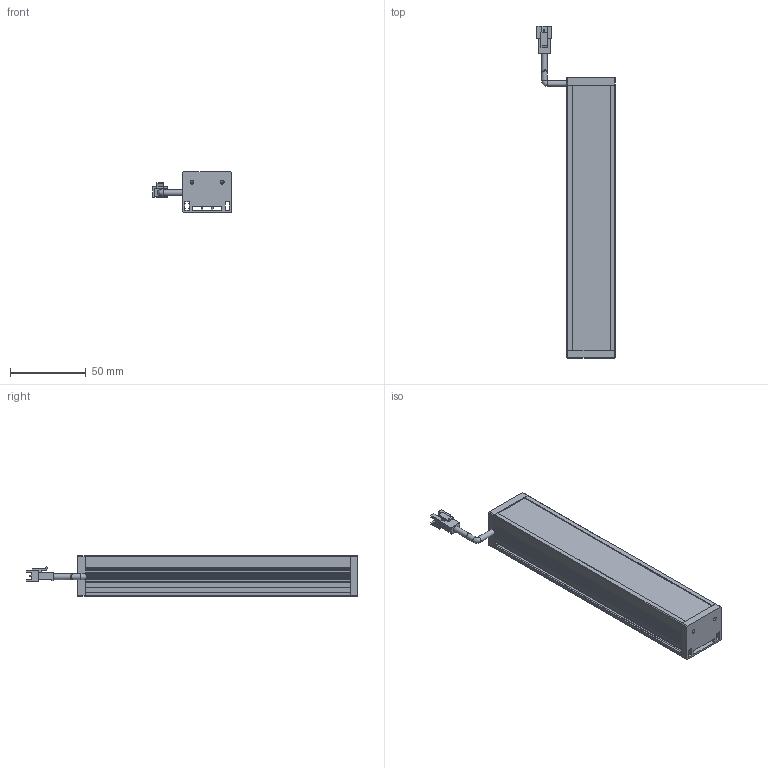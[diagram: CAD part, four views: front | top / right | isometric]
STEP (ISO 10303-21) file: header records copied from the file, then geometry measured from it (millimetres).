
FILE_DESCRIPTION(/* description */ (''),/* implementation_level */ '2;1');
FILE_NAME(/* name */ '',/* time_stamp */ '2024-02-21T10:42:57+08:00',/* author */ (''),/* organization */ (''),/* preprocessor_version */ 'ST-DEVELOPER v20',/* originating_system */ 'Autodesk Translation Framework v12.20.1.177',/* authorisation */ '');
FILE_SCHEMA (('AUTOMOTIVE_DESIGN { 1 0 10303 214 3 1 1 }'));
Length unit declared in the file: millimetre
Products named in the file (6): L30; 3拼母头 v2; 主体; 漫射板; 挡头 (1); 挡头
Assembly tree (5 placements, depth 2):
  L30
    3拼母头 v2
    主体
    漫射板
    挡头 (1)
    挡头
Bounding box: 52 x 219 x 27 mm (x, y, z)
Volume: 67491.7 mm3; surface area: 64252.7 mm2
Topology: 6 solids, 6 shells, 416 faces, 1179 edges, 784 vertices
Faces by surface type: plane 300, cylinder 111, cone 4, torus 1
Full cylindrical faces by diameter (mm): 2.529 x4, 3.8 x3
Entity records: 13619 total; most frequent: CARTESIAN_POINT 2391, ORIENTED_EDGE 2350, DIRECTION 2265, EDGE_CURVE 1175, LINE 937, VECTOR 937, VERTEX_POINT 784, AXIS2_PLACEMENT_3D 664
